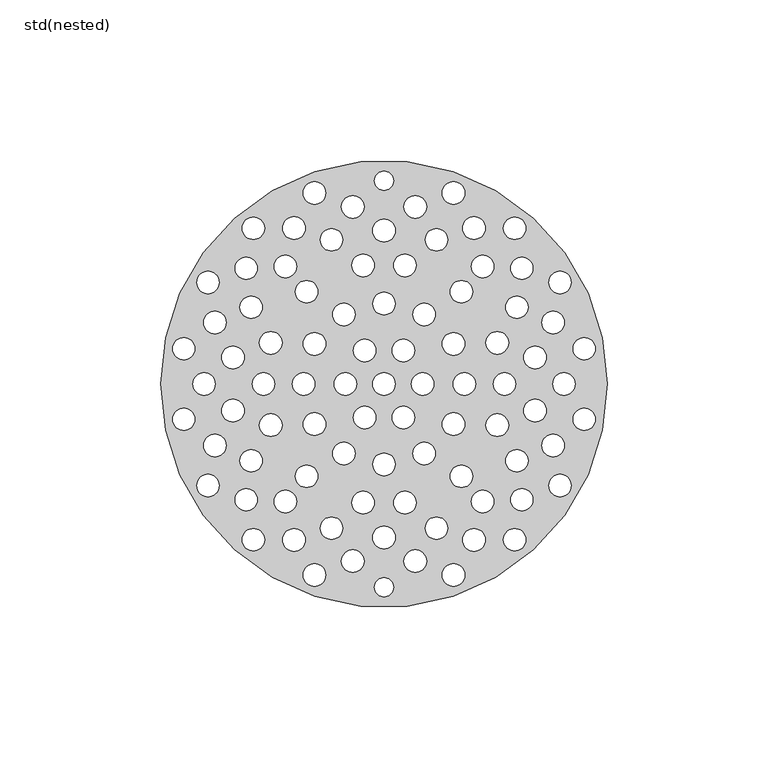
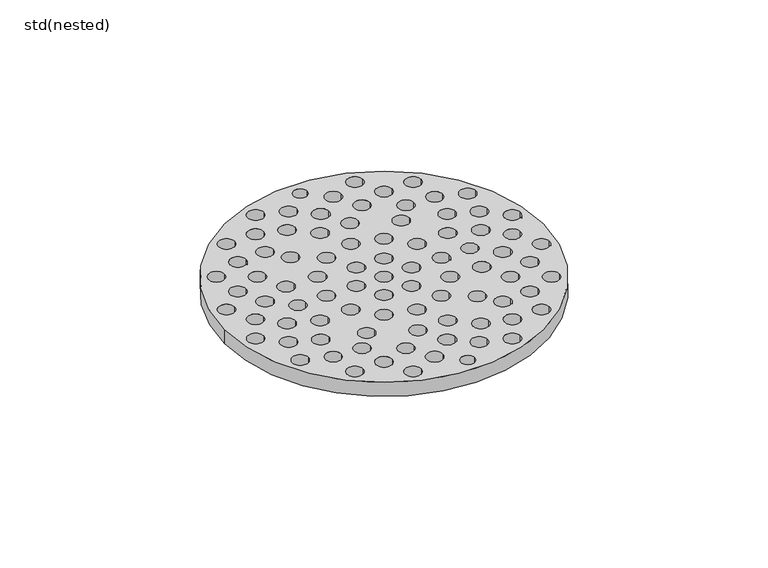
"""IFC4 building model written with IfcOpenShell, lengths in millimetres: sanitary terminal geometry, ZZZ_do not use_PF_ST_UN_strainer_ACO : std(nested)."""

from ifc_helpers import new_model, si_unit, point, frame, frame_2d, origin, origin_2d, place, context, project, spatial, circle_curve, trimmed, segment, composite_curve, outline, extrude, source, transform, mapped, element, save


def std_nested_a06eb340(model_context):
    return source(origin(), model_context, "Body", "SweptSolid", [
        extrude(outline(composite_curve([segment(trimmed(circle_curve(origin_2d(), 69.5), [point((-69.5, 0.0))], [point((69.5, 0.0))], False, "CARTESIAN"), True, "CONTINUOUS"), segment(trimmed(circle_curve(origin_2d(), 69.5), [point((69.5, 0.0))], [point((-69.5, 0.0))], False, "CARTESIAN"), True, "CONTINUOUS")], self_intersect=False), holes=[composite_curve([segment(trimmed(circle_curve(origin_2d(), 3.5), [point((-3.5, 0.0))], [point((3.5, 0.0))], True, "CARTESIAN"), True, "CONTINUOUS"), segment(trimmed(circle_curve(origin_2d(), 3.5), [point((3.5, 0.0))], [point((-3.5, 0.0))], True, "CARTESIAN"), True, "CONTINUOUS")], self_intersect=False), composite_curve([segment(trimmed(circle_curve(frame_2d((12.0298179, 0.0)), 3.504218), [point((8.5255999, 0.0))], [point((15.534036, 0.0))], True, "CARTESIAN"), True, "CONTINUOUS"), segment(trimmed(circle_curve(frame_2d((12.0298179, 0.0)), 3.504218), [point((15.534036, 0.0))], [point((8.5255999, 0.0))], True, "CARTESIAN"), True, "CONTINUOUS")], self_intersect=False), composite_curve([segment(trimmed(circle_curve(frame_2d((6.014909, -10.4181279)), 3.5028216), [point((2.5120874, -10.4181279))], [point((9.5177305, -10.4181279))], True, "CARTESIAN"), True, "CONTINUOUS"), segment(trimmed(circle_curve(frame_2d((6.014909, -10.4181279)), 3.5028216), [point((9.5177305, -10.4181279))], [point((2.5120874, -10.4181279))], True, "CARTESIAN"), True, "CONTINUOUS")], self_intersect=False), composite_curve([segment(trimmed(circle_curve(frame_2d((6.014909, 10.4181279)), 3.506112), [point((2.508797, 10.4181279))], [point((9.521021, 10.4181279))], True, "CARTESIAN"), True, "CONTINUOUS"), segment(trimmed(circle_curve(frame_2d((6.014909, 10.4181279)), 3.506112), [point((9.521021, 10.4181279))], [point((2.508797, 10.4181279))], True, "CARTESIAN"), True, "CONTINUOUS")], self_intersect=False), composite_curve([segment(trimmed(circle_curve(frame_2d((-12.0298179, 0.0)), 3.504218), [point((-8.5255999, 0.0))], [point((-15.534036, 0.0))], True, "CARTESIAN"), True, "CONTINUOUS"), segment(trimmed(circle_curve(frame_2d((-12.0298179, 0.0)), 3.504218), [point((-15.534036, 0.0))], [point((-8.5255999, 0.0))], True, "CARTESIAN"), True, "CONTINUOUS")], self_intersect=False), composite_curve([segment(trimmed(circle_curve(frame_2d((-6.014909, -10.4181279)), 3.5028216), [point((-2.5120874, -10.4181279))], [point((-9.5177305, -10.4181279))], True, "CARTESIAN"), True, "CONTINUOUS"), segment(trimmed(circle_curve(frame_2d((-6.014909, -10.4181279)), 3.5028216), [point((-9.5177305, -10.4181279))], [point((-2.5120874, -10.4181279))], True, "CARTESIAN"), True, "CONTINUOUS")], self_intersect=False), composite_curve([segment(trimmed(circle_curve(frame_2d((-6.014909, 10.4181279)), 3.506112), [point((-2.508797, 10.4181279))], [point((-9.521021, 10.4181279))], True, "CARTESIAN"), True, "CONTINUOUS"), segment(trimmed(circle_curve(frame_2d((-6.014909, 10.4181279)), 3.506112), [point((-9.521021, 10.4181279))], [point((-2.508797, 10.4181279))], True, "CARTESIAN"), True, "CONTINUOUS")], self_intersect=False), composite_curve([segment(trimmed(circle_curve(frame_2d((0.0, -25.0)), 3.4978056), [point((-3.4978056, -25.0))], [point((3.4978056, -25.0))], True, "CARTESIAN"), True, "CONTINUOUS"), segment(trimmed(circle_curve(frame_2d((0.0, -25.0)), 3.4978056), [point((3.4978056, -25.0))], [point((-3.4978056, -25.0))], True, "CARTESIAN"), True, "CONTINUOUS")], self_intersect=False), composite_curve([segment(trimmed(circle_curve(frame_2d((25.0, 0.0)), 3.4808201), [point((21.5191799, 0.0))], [point((28.4808201, 0.0))], True, "CARTESIAN"), True, "CONTINUOUS"), segment(trimmed(circle_curve(frame_2d((25.0, 0.0)), 3.4808201), [point((28.4808201, 0.0))], [point((21.5191799, 0.0))], True, "CARTESIAN"), True, "CONTINUOUS")], self_intersect=False), composite_curve([segment(trimmed(circle_curve(frame_2d((12.5, -21.6506351)), 3.4976423), [point((9.0023577, -21.6506351))], [point((15.9976423, -21.6506351))], True, "CARTESIAN"), True, "CONTINUOUS"), segment(trimmed(circle_curve(frame_2d((12.5, -21.6506351)), 3.4976423), [point((15.9976423, -21.6506351))], [point((9.0023577, -21.6506351))], True, "CARTESIAN"), True, "CONTINUOUS")], self_intersect=False), composite_curve([segment(trimmed(circle_curve(frame_2d((21.6506351, -12.5)), 3.5257951), [point((18.12484, -12.5))], [point((25.1764302, -12.5))], True, "CARTESIAN"), True, "CONTINUOUS"), segment(trimmed(circle_curve(frame_2d((21.6506351, -12.5)), 3.5257951), [point((25.1764302, -12.5))], [point((18.12484, -12.5))], True, "CARTESIAN"), True, "CONTINUOUS")], self_intersect=False), composite_curve([segment(trimmed(circle_curve(frame_2d((0.0, 25.0)), 3.4978056), [point((-3.4978056, 25.0))], [point((3.4978056, 25.0))], True, "CARTESIAN"), True, "CONTINUOUS"), segment(trimmed(circle_curve(frame_2d((0.0, 25.0)), 3.4978056), [point((3.4978056, 25.0))], [point((-3.4978056, 25.0))], True, "CARTESIAN"), True, "CONTINUOUS")], self_intersect=False), composite_curve([segment(trimmed(circle_curve(frame_2d((12.5, 21.6506351)), 3.4976423), [point((9.0023577, 21.6506351))], [point((15.9976423, 21.6506351))], True, "CARTESIAN"), True, "CONTINUOUS"), segment(trimmed(circle_curve(frame_2d((12.5, 21.6506351)), 3.4976423), [point((15.9976423, 21.6506351))], [point((9.0023577, 21.6506351))], True, "CARTESIAN"), True, "CONTINUOUS")], self_intersect=False), composite_curve([segment(trimmed(circle_curve(frame_2d((21.6506351, 12.5)), 3.5257951), [point((18.12484, 12.5))], [point((25.1764302, 12.5))], True, "CARTESIAN"), True, "CONTINUOUS"), segment(trimmed(circle_curve(frame_2d((21.6506351, 12.5)), 3.5257951), [point((25.1764302, 12.5))], [point((18.12484, 12.5))], True, "CARTESIAN"), True, "CONTINUOUS")], self_intersect=False), composite_curve([segment(trimmed(circle_curve(frame_2d((-25.0, 0.0)), 3.4808201), [point((-21.5191799, 0.0))], [point((-28.4808201, 0.0))], True, "CARTESIAN"), True, "CONTINUOUS"), segment(trimmed(circle_curve(frame_2d((-25.0, 0.0)), 3.4808201), [point((-28.4808201, 0.0))], [point((-21.5191799, 0.0))], True, "CARTESIAN"), True, "CONTINUOUS")], self_intersect=False), composite_curve([segment(trimmed(circle_curve(frame_2d((-12.5, -21.6506351)), 3.4976423), [point((-9.0023577, -21.6506351))], [point((-15.9976423, -21.6506351))], True, "CARTESIAN"), True, "CONTINUOUS"), segment(trimmed(circle_curve(frame_2d((-12.5, -21.6506351)), 3.4976423), [point((-15.9976423, -21.6506351))], [point((-9.0023577, -21.6506351))], True, "CARTESIAN"), True, "CONTINUOUS")], self_intersect=False), composite_curve([segment(trimmed(circle_curve(frame_2d((-21.6506351, -12.5)), 3.5257951), [point((-18.12484, -12.5))], [point((-25.1764302, -12.5))], True, "CARTESIAN"), True, "CONTINUOUS"), segment(trimmed(circle_curve(frame_2d((-21.6506351, -12.5)), 3.5257951), [point((-25.1764302, -12.5))], [point((-18.12484, -12.5))], True, "CARTESIAN"), True, "CONTINUOUS")], self_intersect=False), composite_curve([segment(trimmed(circle_curve(frame_2d((-12.5, 21.6506351)), 3.4976423), [point((-9.0023577, 21.6506351))], [point((-15.9976423, 21.6506351))], True, "CARTESIAN"), True, "CONTINUOUS"), segment(trimmed(circle_curve(frame_2d((-12.5, 21.6506351)), 3.4976423), [point((-15.9976423, 21.6506351))], [point((-9.0023577, 21.6506351))], True, "CARTESIAN"), True, "CONTINUOUS")], self_intersect=False), composite_curve([segment(trimmed(circle_curve(frame_2d((-21.6506351, 12.5)), 3.5257951), [point((-18.12484, 12.5))], [point((-25.1764302, 12.5))], True, "CARTESIAN"), True, "CONTINUOUS"), segment(trimmed(circle_curve(frame_2d((-21.6506351, 12.5)), 3.5257951), [point((-25.1764302, 12.5))], [point((-18.12484, 12.5))], True, "CARTESIAN"), True, "CONTINUOUS")], self_intersect=False), composite_curve([segment(trimmed(circle_curve(frame_2d((-37.5, 0.0)), 3.4535299), [point((-40.9535299, 0.0))], [point((-34.0464701, 0.0))], True, "CARTESIAN"), True, "CONTINUOUS"), segment(trimmed(circle_curve(frame_2d((-37.5, 0.0)), 3.4535299), [point((-34.0464701, 0.0))], [point((-40.9535299, 0.0))], True, "CARTESIAN"), True, "CONTINUOUS")], self_intersect=False), composite_curve([segment(trimmed(circle_curve(frame_2d((-35.2384733, -12.8257554)), 3.5254367), [point((-38.76391, -12.8257554))], [point((-31.7130366, -12.8257554))], True, "CARTESIAN"), True, "CONTINUOUS"), segment(trimmed(circle_curve(frame_2d((-35.2384733, -12.8257554)), 3.5254367), [point((-31.7130366, -12.8257554))], [point((-38.76391, -12.8257554))], True, "CARTESIAN"), True, "CONTINUOUS")], self_intersect=False), composite_curve([segment(trimmed(circle_curve(frame_2d((-24.1045354, -28.7266666)), 3.4932114), [point((-27.5977468, -28.7266666))], [point((-20.611324, -28.7266666))], True, "CARTESIAN"), True, "CONTINUOUS"), segment(trimmed(circle_curve(frame_2d((-24.1045354, -28.7266666)), 3.4932114), [point((-20.611324, -28.7266666))], [point((-27.5977468, -28.7266666))], True, "CARTESIAN"), True, "CONTINUOUS")], self_intersect=False), composite_curve([segment(trimmed(circle_curve(frame_2d((-6.5118067, -36.9302907)), 3.5194336), [point((-10.0312403, -36.9302907))], [point((-2.992373, -36.9302907))], True, "CARTESIAN"), True, "CONTINUOUS"), segment(trimmed(circle_curve(frame_2d((-6.5118067, -36.9302907)), 3.5194336), [point((-2.992373, -36.9302907))], [point((-10.0312403, -36.9302907))], True, "CARTESIAN"), True, "CONTINUOUS")], self_intersect=False), composite_curve([segment(trimmed(circle_curve(frame_2d((-35.2384733, 12.8257554)), 3.5254367), [point((-38.76391, 12.8257554))], [point((-31.7130366, 12.8257554))], True, "CARTESIAN"), True, "CONTINUOUS"), segment(trimmed(circle_curve(frame_2d((-35.2384733, 12.8257554)), 3.5254367), [point((-31.7130366, 12.8257554))], [point((-38.76391, 12.8257554))], True, "CARTESIAN"), True, "CONTINUOUS")], self_intersect=False), composite_curve([segment(trimmed(circle_curve(frame_2d((-24.1045354, 28.7266666)), 3.4932114), [point((-27.5977468, 28.7266666))], [point((-20.611324, 28.7266666))], True, "CARTESIAN"), True, "CONTINUOUS"), segment(trimmed(circle_curve(frame_2d((-24.1045354, 28.7266666)), 3.4932114), [point((-20.611324, 28.7266666))], [point((-27.5977468, 28.7266666))], True, "CARTESIAN"), True, "CONTINUOUS")], self_intersect=False), composite_curve([segment(trimmed(circle_curve(frame_2d((-6.5118067, 36.9302907)), 3.5194336), [point((-10.0312403, 36.9302907))], [point((-2.992373, 36.9302907))], True, "CARTESIAN"), True, "CONTINUOUS"), segment(trimmed(circle_curve(frame_2d((-6.5118067, 36.9302907)), 3.5194336), [point((-2.992373, 36.9302907))], [point((-10.0312403, 36.9302907))], True, "CARTESIAN"), True, "CONTINUOUS")], self_intersect=False), composite_curve([segment(trimmed(circle_curve(frame_2d((37.5, 0.0)), 3.4535299), [point((40.9535299, 0.0))], [point((34.0464701, 0.0))], True, "CARTESIAN"), True, "CONTINUOUS"), segment(trimmed(circle_curve(frame_2d((37.5, 0.0)), 3.4535299), [point((34.0464701, 0.0))], [point((40.9535299, 0.0))], True, "CARTESIAN"), True, "CONTINUOUS")], self_intersect=False), composite_curve([segment(trimmed(circle_curve(frame_2d((35.2384733, -12.8257554)), 3.5254367), [point((38.76391, -12.8257554))], [point((31.7130366, -12.8257554))], True, "CARTESIAN"), True, "CONTINUOUS"), segment(trimmed(circle_curve(frame_2d((35.2384733, -12.8257554)), 3.5254367), [point((31.7130366, -12.8257554))], [point((38.76391, -12.8257554))], True, "CARTESIAN"), True, "CONTINUOUS")], self_intersect=False), composite_curve([segment(trimmed(circle_curve(frame_2d((24.1045354, -28.7266666)), 3.4932114), [point((27.5977468, -28.7266666))], [point((20.611324, -28.7266666))], True, "CARTESIAN"), True, "CONTINUOUS"), segment(trimmed(circle_curve(frame_2d((24.1045354, -28.7266666)), 3.4932114), [point((20.611324, -28.7266666))], [point((27.5977468, -28.7266666))], True, "CARTESIAN"), True, "CONTINUOUS")], self_intersect=False), composite_curve([segment(trimmed(circle_curve(frame_2d((6.5118067, -36.9302907)), 3.5194336), [point((10.0312403, -36.9302907))], [point((2.992373, -36.9302907))], True, "CARTESIAN"), True, "CONTINUOUS"), segment(trimmed(circle_curve(frame_2d((6.5118067, -36.9302907)), 3.5194336), [point((2.992373, -36.9302907))], [point((10.0312403, -36.9302907))], True, "CARTESIAN"), True, "CONTINUOUS")], self_intersect=False), composite_curve([segment(trimmed(circle_curve(frame_2d((35.2384733, 12.8257554)), 3.5254367), [point((38.76391, 12.8257554))], [point((31.7130366, 12.8257554))], True, "CARTESIAN"), True, "CONTINUOUS"), segment(trimmed(circle_curve(frame_2d((35.2384733, 12.8257554)), 3.5254367), [point((31.7130366, 12.8257554))], [point((38.76391, 12.8257554))], True, "CARTESIAN"), True, "CONTINUOUS")], self_intersect=False), composite_curve([segment(trimmed(circle_curve(frame_2d((24.1045354, 28.7266666)), 3.4932114), [point((27.5977468, 28.7266666))], [point((20.611324, 28.7266666))], True, "CARTESIAN"), True, "CONTINUOUS"), segment(trimmed(circle_curve(frame_2d((24.1045354, 28.7266666)), 3.4932114), [point((20.611324, 28.7266666))], [point((27.5977468, 28.7266666))], True, "CARTESIAN"), True, "CONTINUOUS")], self_intersect=False), composite_curve([segment(trimmed(circle_curve(frame_2d((6.5118067, 36.9302907)), 3.5194336), [point((10.0312403, 36.9302907))], [point((2.992373, 36.9302907))], True, "CARTESIAN"), True, "CONTINUOUS"), segment(trimmed(circle_curve(frame_2d((6.5118067, 36.9302907)), 3.5194336), [point((2.992373, 36.9302907))], [point((10.0312403, 36.9302907))], True, "CARTESIAN"), True, "CONTINUOUS")], self_intersect=False), composite_curve([segment(trimmed(circle_curve(frame_2d((0.0, -47.75)), 3.5450516), [point((-3.5450516, -47.75))], [point((3.5450516, -47.75))], True, "CARTESIAN"), True, "CONTINUOUS"), segment(trimmed(circle_curve(frame_2d((0.0, -47.75)), 3.5450516), [point((3.5450516, -47.75))], [point((-3.5450516, -47.75))], True, "CARTESIAN"), True, "CONTINUOUS")], self_intersect=False), composite_curve([segment(trimmed(circle_curve(frame_2d((16.3314618, -44.8703226)), 3.4852187), [point((12.8462432, -44.8703226))], [point((19.8166805, -44.8703226))], True, "CARTESIAN"), True, "CONTINUOUS"), segment(trimmed(circle_curve(frame_2d((16.3314618, -44.8703226)), 3.4852187), [point((19.8166805, -44.8703226))], [point((12.8462432, -44.8703226))], True, "CARTESIAN"), True, "CONTINUOUS")], self_intersect=False), composite_curve([segment(trimmed(circle_curve(frame_2d((30.6931084, -36.5786222)), 3.4906256), [point((27.2024828, -36.5786222))], [point((34.1837339, -36.5786222))], True, "CARTESIAN"), True, "CONTINUOUS"), segment(trimmed(circle_curve(frame_2d((30.6931084, -36.5786222)), 3.4906256), [point((34.1837339, -36.5786222))], [point((27.2024828, -36.5786222))], True, "CARTESIAN"), True, "CONTINUOUS")], self_intersect=False), composite_curve([segment(trimmed(circle_curve(frame_2d((41.352713, -23.875)), 3.4844835), [point((37.8682295, -23.875))], [point((44.8371965, -23.875))], True, "CARTESIAN"), True, "CONTINUOUS"), segment(trimmed(circle_curve(frame_2d((41.352713, -23.875)), 3.4844835), [point((44.8371965, -23.875))], [point((37.8682295, -23.875))], True, "CARTESIAN"), True, "CONTINUOUS")], self_intersect=False), composite_curve([segment(trimmed(circle_curve(frame_2d((47.0245702, -8.2917005)), 3.5366228), [point((43.4879474, -8.2917005))], [point((50.561193, -8.2917005))], True, "CARTESIAN"), True, "CONTINUOUS"), segment(trimmed(circle_curve(frame_2d((47.0245702, -8.2917005)), 3.5366228), [point((50.561193, -8.2917005))], [point((43.4879474, -8.2917005))], True, "CARTESIAN"), True, "CONTINUOUS")], self_intersect=False), composite_curve([segment(trimmed(circle_curve(frame_2d((0.0, 47.75)), 3.5450516), [point((-3.5450516, 47.75))], [point((3.5450516, 47.75))], True, "CARTESIAN"), True, "CONTINUOUS"), segment(trimmed(circle_curve(frame_2d((0.0, 47.75)), 3.5450516), [point((3.5450516, 47.75))], [point((-3.5450516, 47.75))], True, "CARTESIAN"), True, "CONTINUOUS")], self_intersect=False), composite_curve([segment(trimmed(circle_curve(frame_2d((16.3314618, 44.8703226)), 3.4852187), [point((12.8462432, 44.8703226))], [point((19.8166805, 44.8703226))], True, "CARTESIAN"), True, "CONTINUOUS"), segment(trimmed(circle_curve(frame_2d((16.3314618, 44.8703226)), 3.4852187), [point((19.8166805, 44.8703226))], [point((12.8462432, 44.8703226))], True, "CARTESIAN"), True, "CONTINUOUS")], self_intersect=False), composite_curve([segment(trimmed(circle_curve(frame_2d((30.6931084, 36.5786222)), 3.4906256), [point((27.2024828, 36.5786222))], [point((34.1837339, 36.5786222))], True, "CARTESIAN"), True, "CONTINUOUS"), segment(trimmed(circle_curve(frame_2d((30.6931084, 36.5786222)), 3.4906256), [point((34.1837339, 36.5786222))], [point((27.2024828, 36.5786222))], True, "CARTESIAN"), True, "CONTINUOUS")], self_intersect=False), composite_curve([segment(trimmed(circle_curve(frame_2d((41.352713, 23.875)), 3.4844835), [point((37.8682295, 23.875))], [point((44.8371965, 23.875))], True, "CARTESIAN"), True, "CONTINUOUS"), segment(trimmed(circle_curve(frame_2d((41.352713, 23.875)), 3.4844835), [point((44.8371965, 23.875))], [point((37.8682295, 23.875))], True, "CARTESIAN"), True, "CONTINUOUS")], self_intersect=False), composite_curve([segment(trimmed(circle_curve(frame_2d((47.0245702, 8.2917005)), 3.5366228), [point((43.4879474, 8.2917005))], [point((50.561193, 8.2917005))], True, "CARTESIAN"), True, "CONTINUOUS"), segment(trimmed(circle_curve(frame_2d((47.0245702, 8.2917005)), 3.5366228), [point((50.561193, 8.2917005))], [point((43.4879474, 8.2917005))], True, "CARTESIAN"), True, "CONTINUOUS")], self_intersect=False), composite_curve([segment(trimmed(circle_curve(frame_2d((-16.3314618, -44.8703226)), 3.4852187), [point((-12.8462432, -44.8703226))], [point((-19.8166805, -44.8703226))], True, "CARTESIAN"), True, "CONTINUOUS"), segment(trimmed(circle_curve(frame_2d((-16.3314618, -44.8703226)), 3.4852187), [point((-19.8166805, -44.8703226))], [point((-12.8462432, -44.8703226))], True, "CARTESIAN"), True, "CONTINUOUS")], self_intersect=False), composite_curve([segment(trimmed(circle_curve(frame_2d((-30.6931084, -36.5786222)), 3.4906256), [point((-27.2024828, -36.5786222))], [point((-34.1837339, -36.5786222))], True, "CARTESIAN"), True, "CONTINUOUS"), segment(trimmed(circle_curve(frame_2d((-30.6931084, -36.5786222)), 3.4906256), [point((-34.1837339, -36.5786222))], [point((-27.2024828, -36.5786222))], True, "CARTESIAN"), True, "CONTINUOUS")], self_intersect=False), composite_curve([segment(trimmed(circle_curve(frame_2d((-41.352713, -23.875)), 3.4844835), [point((-37.8682295, -23.875))], [point((-44.8371965, -23.875))], True, "CARTESIAN"), True, "CONTINUOUS"), segment(trimmed(circle_curve(frame_2d((-41.352713, -23.875)), 3.4844835), [point((-44.8371965, -23.875))], [point((-37.8682295, -23.875))], True, "CARTESIAN"), True, "CONTINUOUS")], self_intersect=False), composite_curve([segment(trimmed(circle_curve(frame_2d((-47.0245702, -8.2917005)), 3.5366228), [point((-43.4879474, -8.2917005))], [point((-50.561193, -8.2917005))], True, "CARTESIAN"), True, "CONTINUOUS"), segment(trimmed(circle_curve(frame_2d((-47.0245702, -8.2917005)), 3.5366228), [point((-50.561193, -8.2917005))], [point((-43.4879474, -8.2917005))], True, "CARTESIAN"), True, "CONTINUOUS")], self_intersect=False), composite_curve([segment(trimmed(circle_curve(frame_2d((-16.3314618, 44.8703226)), 3.4852187), [point((-12.8462432, 44.8703226))], [point((-19.8166805, 44.8703226))], True, "CARTESIAN"), True, "CONTINUOUS"), segment(trimmed(circle_curve(frame_2d((-16.3314618, 44.8703226)), 3.4852187), [point((-19.8166805, 44.8703226))], [point((-12.8462432, 44.8703226))], True, "CARTESIAN"), True, "CONTINUOUS")], self_intersect=False), composite_curve([segment(trimmed(circle_curve(frame_2d((-30.6931084, 36.5786222)), 3.4906256), [point((-27.2024828, 36.5786222))], [point((-34.1837339, 36.5786222))], True, "CARTESIAN"), True, "CONTINUOUS"), segment(trimmed(circle_curve(frame_2d((-30.6931084, 36.5786222)), 3.4906256), [point((-34.1837339, 36.5786222))], [point((-27.2024828, 36.5786222))], True, "CARTESIAN"), True, "CONTINUOUS")], self_intersect=False), composite_curve([segment(trimmed(circle_curve(frame_2d((-41.352713, 23.875)), 3.4844835), [point((-37.8682295, 23.875))], [point((-44.8371965, 23.875))], True, "CARTESIAN"), True, "CONTINUOUS"), segment(trimmed(circle_curve(frame_2d((-41.352713, 23.875)), 3.4844835), [point((-44.8371965, 23.875))], [point((-37.8682295, 23.875))], True, "CARTESIAN"), True, "CONTINUOUS")], self_intersect=False), composite_curve([segment(trimmed(circle_curve(frame_2d((-47.0245702, 8.2917005)), 3.5366228), [point((-43.4879474, 8.2917005))], [point((-50.561193, 8.2917005))], True, "CARTESIAN"), True, "CONTINUOUS"), segment(trimmed(circle_curve(frame_2d((-47.0245702, 8.2917005)), 3.5366228), [point((-50.561193, 8.2917005))], [point((-43.4879474, 8.2917005))], True, "CARTESIAN"), True, "CONTINUOUS")], self_intersect=False), composite_curve([segment(trimmed(circle_curve(frame_2d((56.0, 0.0)), 3.4785692), [point((52.5214308, 0.0))], [point((59.4785692, 0.0))], True, "CARTESIAN"), True, "CONTINUOUS"), segment(trimmed(circle_curve(frame_2d((56.0, 0.0)), 3.4785692), [point((59.4785692, 0.0))], [point((52.5214308, 0.0))], True, "CARTESIAN"), True, "CONTINUOUS")], self_intersect=False), composite_curve([segment(trimmed(circle_curve(frame_2d((52.6227868, -19.153128)), 3.5090356), [point((49.1137511, -19.153128))], [point((56.1318224, -19.153128))], True, "CARTESIAN"), True, "CONTINUOUS"), segment(trimmed(circle_curve(frame_2d((52.6227868, -19.153128)), 3.5090356), [point((56.1318224, -19.153128))], [point((49.1137511, -19.153128))], True, "CARTESIAN"), True, "CONTINUOUS")], self_intersect=False), composite_curve([segment(trimmed(circle_curve(frame_2d((42.8984888, -35.9961061)), 3.4678065), [point((39.4306823, -35.9961061))], [point((46.3662953, -35.9961061))], True, "CARTESIAN"), True, "CONTINUOUS"), segment(trimmed(circle_curve(frame_2d((42.8984888, -35.9961061)), 3.4678065), [point((46.3662953, -35.9961061))], [point((39.4306823, -35.9961061))], True, "CARTESIAN"), True, "CONTINUOUS")], self_intersect=False), composite_curve([segment(trimmed(circle_curve(frame_2d((28.0, -48.4974226)), 3.5317156), [point((24.4682844, -48.4974226))], [point((31.5317156, -48.4974226))], True, "CARTESIAN"), True, "CONTINUOUS"), segment(trimmed(circle_curve(frame_2d((28.0, -48.4974226)), 3.5317156), [point((31.5317156, -48.4974226))], [point((24.4682844, -48.4974226))], True, "CARTESIAN"), True, "CONTINUOUS")], self_intersect=False), composite_curve([segment(trimmed(circle_curve(frame_2d((9.7242979, -55.1492342)), 3.511042), [point((6.213256, -55.1492342))], [point((13.2353399, -55.1492342))], True, "CARTESIAN"), True, "CONTINUOUS"), segment(trimmed(circle_curve(frame_2d((9.7242979, -55.1492342)), 3.511042), [point((13.2353399, -55.1492342))], [point((6.213256, -55.1492342))], True, "CARTESIAN"), True, "CONTINUOUS")], self_intersect=False), composite_curve([segment(trimmed(circle_curve(frame_2d((52.6227868, 19.153128)), 3.5090356), [point((49.1137511, 19.153128))], [point((56.1318224, 19.153128))], True, "CARTESIAN"), True, "CONTINUOUS"), segment(trimmed(circle_curve(frame_2d((52.6227868, 19.153128)), 3.5090356), [point((56.1318224, 19.153128))], [point((49.1137511, 19.153128))], True, "CARTESIAN"), True, "CONTINUOUS")], self_intersect=False), composite_curve([segment(trimmed(circle_curve(frame_2d((42.8984888, 35.9961061)), 3.4678065), [point((39.4306823, 35.9961061))], [point((46.3662953, 35.9961061))], True, "CARTESIAN"), True, "CONTINUOUS"), segment(trimmed(circle_curve(frame_2d((42.8984888, 35.9961061)), 3.4678065), [point((46.3662953, 35.9961061))], [point((39.4306823, 35.9961061))], True, "CARTESIAN"), True, "CONTINUOUS")], self_intersect=False), composite_curve([segment(trimmed(circle_curve(frame_2d((28.0, 48.4974226)), 3.5317156), [point((24.4682844, 48.4974226))], [point((31.5317156, 48.4974226))], True, "CARTESIAN"), True, "CONTINUOUS"), segment(trimmed(circle_curve(frame_2d((28.0, 48.4974226)), 3.5317156), [point((31.5317156, 48.4974226))], [point((24.4682844, 48.4974226))], True, "CARTESIAN"), True, "CONTINUOUS")], self_intersect=False), composite_curve([segment(trimmed(circle_curve(frame_2d((9.7242979, 55.1492342)), 3.511042), [point((6.213256, 55.1492342))], [point((13.2353399, 55.1492342))], True, "CARTESIAN"), True, "CONTINUOUS"), segment(trimmed(circle_curve(frame_2d((9.7242979, 55.1492342)), 3.511042), [point((13.2353399, 55.1492342))], [point((6.213256, 55.1492342))], True, "CARTESIAN"), True, "CONTINUOUS")], self_intersect=False), composite_curve([segment(trimmed(circle_curve(frame_2d((-56.0, 0.0)), 3.4785692), [point((-52.5214308, 0.0))], [point((-59.4785692, 0.0))], True, "CARTESIAN"), True, "CONTINUOUS"), segment(trimmed(circle_curve(frame_2d((-56.0, 0.0)), 3.4785692), [point((-59.4785692, 0.0))], [point((-52.5214308, 0.0))], True, "CARTESIAN"), True, "CONTINUOUS")], self_intersect=False), composite_curve([segment(trimmed(circle_curve(frame_2d((-52.6227868, -19.153128)), 3.5090356), [point((-49.1137511, -19.153128))], [point((-56.1318224, -19.153128))], True, "CARTESIAN"), True, "CONTINUOUS"), segment(trimmed(circle_curve(frame_2d((-52.6227868, -19.153128)), 3.5090356), [point((-56.1318224, -19.153128))], [point((-49.1137511, -19.153128))], True, "CARTESIAN"), True, "CONTINUOUS")], self_intersect=False), composite_curve([segment(trimmed(circle_curve(frame_2d((-42.8984888, -35.9961061)), 3.4678065), [point((-39.4306823, -35.9961061))], [point((-46.3662953, -35.9961061))], True, "CARTESIAN"), True, "CONTINUOUS"), segment(trimmed(circle_curve(frame_2d((-42.8984888, -35.9961061)), 3.4678065), [point((-46.3662953, -35.9961061))], [point((-39.4306823, -35.9961061))], True, "CARTESIAN"), True, "CONTINUOUS")], self_intersect=False), composite_curve([segment(trimmed(circle_curve(frame_2d((-28.0, -48.4974226)), 3.5317156), [point((-24.4682844, -48.4974226))], [point((-31.5317156, -48.4974226))], True, "CARTESIAN"), True, "CONTINUOUS"), segment(trimmed(circle_curve(frame_2d((-28.0, -48.4974226)), 3.5317156), [point((-31.5317156, -48.4974226))], [point((-24.4682844, -48.4974226))], True, "CARTESIAN"), True, "CONTINUOUS")], self_intersect=False), composite_curve([segment(trimmed(circle_curve(frame_2d((-9.7242979, -55.1492342)), 3.511042), [point((-6.213256, -55.1492342))], [point((-13.2353399, -55.1492342))], True, "CARTESIAN"), True, "CONTINUOUS"), segment(trimmed(circle_curve(frame_2d((-9.7242979, -55.1492342)), 3.511042), [point((-13.2353399, -55.1492342))], [point((-6.213256, -55.1492342))], True, "CARTESIAN"), True, "CONTINUOUS")], self_intersect=False), composite_curve([segment(trimmed(circle_curve(frame_2d((-52.6227868, 19.153128)), 3.5090356), [point((-49.1137511, 19.153128))], [point((-56.1318224, 19.153128))], True, "CARTESIAN"), True, "CONTINUOUS"), segment(trimmed(circle_curve(frame_2d((-52.6227868, 19.153128)), 3.5090356), [point((-56.1318224, 19.153128))], [point((-49.1137511, 19.153128))], True, "CARTESIAN"), True, "CONTINUOUS")], self_intersect=False), composite_curve([segment(trimmed(circle_curve(frame_2d((-42.8984888, 35.9961061)), 3.4678065), [point((-39.4306823, 35.9961061))], [point((-46.3662953, 35.9961061))], True, "CARTESIAN"), True, "CONTINUOUS"), segment(trimmed(circle_curve(frame_2d((-42.8984888, 35.9961061)), 3.4678065), [point((-46.3662953, 35.9961061))], [point((-39.4306823, 35.9961061))], True, "CARTESIAN"), True, "CONTINUOUS")], self_intersect=False), composite_curve([segment(trimmed(circle_curve(frame_2d((-28.0, 48.4974226)), 3.5317156), [point((-24.4682844, 48.4974226))], [point((-31.5317156, 48.4974226))], True, "CARTESIAN"), True, "CONTINUOUS"), segment(trimmed(circle_curve(frame_2d((-28.0, 48.4974226)), 3.5317156), [point((-31.5317156, 48.4974226))], [point((-24.4682844, 48.4974226))], True, "CARTESIAN"), True, "CONTINUOUS")], self_intersect=False), composite_curve([segment(trimmed(circle_curve(frame_2d((-9.7242979, 55.1492342)), 3.511042), [point((-6.213256, 55.1492342))], [point((-13.2353399, 55.1492342))], True, "CARTESIAN"), True, "CONTINUOUS"), segment(trimmed(circle_curve(frame_2d((-9.7242979, 55.1492342)), 3.511042), [point((-13.2353399, 55.1492342))], [point((-6.213256, 55.1492342))], True, "CARTESIAN"), True, "CONTINUOUS")], self_intersect=False), composite_curve([segment(trimmed(circle_curve(frame_2d((0.0, -63.25)), 3.0112377), [point((-3.0112377, -63.25))], [point((3.0112377, -63.25))], True, "CARTESIAN"), True, "CONTINUOUS"), segment(trimmed(circle_curve(frame_2d((0.0, -63.25)), 3.0112377), [point((3.0112377, -63.25))], [point((-3.0112377, -63.25))], True, "CARTESIAN"), True, "CONTINUOUS")], self_intersect=False), composite_curve([segment(trimmed(circle_curve(frame_2d((21.6327741, -59.4355583)), 3.5038366), [point((18.1289374, -59.4355583))], [point((25.1366107, -59.4355583))], True, "CARTESIAN"), True, "CONTINUOUS"), segment(trimmed(circle_curve(frame_2d((21.6327741, -59.4355583)), 3.5038366), [point((25.1366107, -59.4355583))], [point((18.1289374, -59.4355583))], True, "CARTESIAN"), True, "CONTINUOUS")], self_intersect=False), composite_curve([segment(trimmed(circle_curve(frame_2d((40.6563163, -48.452311)), 3.4864435), [point((37.1698728, -48.452311))], [point((44.1427598, -48.452311))], True, "CARTESIAN"), True, "CONTINUOUS"), segment(trimmed(circle_curve(frame_2d((40.6563163, -48.452311)), 3.4864435), [point((44.1427598, -48.452311))], [point((37.1698728, -48.452311))], True, "CARTESIAN"), True, "CONTINUOUS")], self_intersect=False), composite_curve([segment(trimmed(circle_curve(frame_2d((54.7761068, -31.625)), 3.4935293), [point((51.2825775, -31.625))], [point((58.2696361, -31.625))], True, "CARTESIAN"), True, "CONTINUOUS"), segment(trimmed(circle_curve(frame_2d((54.7761068, -31.625)), 3.4935293), [point((58.2696361, -31.625))], [point((51.2825775, -31.625))], True, "CARTESIAN"), True, "CONTINUOUS")], self_intersect=False), composite_curve([segment(trimmed(circle_curve(frame_2d((62.2890904, -10.9832472)), 3.4607295), [point((58.8283609, -10.9832472))], [point((65.7498199, -10.9832472))], True, "CARTESIAN"), True, "CONTINUOUS"), segment(trimmed(circle_curve(frame_2d((62.2890904, -10.9832472)), 3.4607295), [point((65.7498199, -10.9832472))], [point((58.8283609, -10.9832472))], True, "CARTESIAN"), True, "CONTINUOUS")], self_intersect=False), composite_curve([segment(trimmed(circle_curve(frame_2d((0.0, 63.25)), 3.0112377), [point((-3.0112377, 63.25))], [point((3.0112377, 63.25))], True, "CARTESIAN"), True, "CONTINUOUS"), segment(trimmed(circle_curve(frame_2d((0.0, 63.25)), 3.0112377), [point((3.0112377, 63.25))], [point((-3.0112377, 63.25))], True, "CARTESIAN"), True, "CONTINUOUS")], self_intersect=False), composite_curve([segment(trimmed(circle_curve(frame_2d((21.6327741, 59.4355583)), 3.5038366), [point((18.1289374, 59.4355583))], [point((25.1366107, 59.4355583))], True, "CARTESIAN"), True, "CONTINUOUS"), segment(trimmed(circle_curve(frame_2d((21.6327741, 59.4355583)), 3.5038366), [point((25.1366107, 59.4355583))], [point((18.1289374, 59.4355583))], True, "CARTESIAN"), True, "CONTINUOUS")], self_intersect=False), composite_curve([segment(trimmed(circle_curve(frame_2d((40.6563163, 48.452311)), 3.4864435), [point((37.1698728, 48.452311))], [point((44.1427598, 48.452311))], True, "CARTESIAN"), True, "CONTINUOUS"), segment(trimmed(circle_curve(frame_2d((40.6563163, 48.452311)), 3.4864435), [point((44.1427598, 48.452311))], [point((37.1698728, 48.452311))], True, "CARTESIAN"), True, "CONTINUOUS")], self_intersect=False), composite_curve([segment(trimmed(circle_curve(frame_2d((54.7761068, 31.625)), 3.4935293), [point((51.2825775, 31.625))], [point((58.2696361, 31.625))], True, "CARTESIAN"), True, "CONTINUOUS"), segment(trimmed(circle_curve(frame_2d((54.7761068, 31.625)), 3.4935293), [point((58.2696361, 31.625))], [point((51.2825775, 31.625))], True, "CARTESIAN"), True, "CONTINUOUS")], self_intersect=False), composite_curve([segment(trimmed(circle_curve(frame_2d((62.2890904, 10.9832472)), 3.4607295), [point((58.8283609, 10.9832472))], [point((65.7498199, 10.9832472))], True, "CARTESIAN"), True, "CONTINUOUS"), segment(trimmed(circle_curve(frame_2d((62.2890904, 10.9832472)), 3.4607295), [point((65.7498199, 10.9832472))], [point((58.8283609, 10.9832472))], True, "CARTESIAN"), True, "CONTINUOUS")], self_intersect=False), composite_curve([segment(trimmed(circle_curve(frame_2d((-21.6327741, -59.4355583)), 3.5038366), [point((-18.1289374, -59.4355583))], [point((-25.1366107, -59.4355583))], True, "CARTESIAN"), True, "CONTINUOUS"), segment(trimmed(circle_curve(frame_2d((-21.6327741, -59.4355583)), 3.5038366), [point((-25.1366107, -59.4355583))], [point((-18.1289374, -59.4355583))], True, "CARTESIAN"), True, "CONTINUOUS")], self_intersect=False), composite_curve([segment(trimmed(circle_curve(frame_2d((-40.6563163, -48.452311)), 3.4864435), [point((-37.1698728, -48.452311))], [point((-44.1427598, -48.452311))], True, "CARTESIAN"), True, "CONTINUOUS"), segment(trimmed(circle_curve(frame_2d((-40.6563163, -48.452311)), 3.4864435), [point((-44.1427598, -48.452311))], [point((-37.1698728, -48.452311))], True, "CARTESIAN"), True, "CONTINUOUS")], self_intersect=False), composite_curve([segment(trimmed(circle_curve(frame_2d((-54.7761068, -31.625)), 3.4935293), [point((-51.2825775, -31.625))], [point((-58.2696361, -31.625))], True, "CARTESIAN"), True, "CONTINUOUS"), segment(trimmed(circle_curve(frame_2d((-54.7761068, -31.625)), 3.4935293), [point((-58.2696361, -31.625))], [point((-51.2825775, -31.625))], True, "CARTESIAN"), True, "CONTINUOUS")], self_intersect=False), composite_curve([segment(trimmed(circle_curve(frame_2d((-62.2890904, -10.9832472)), 3.4607295), [point((-58.8283609, -10.9832472))], [point((-65.7498199, -10.9832472))], True, "CARTESIAN"), True, "CONTINUOUS"), segment(trimmed(circle_curve(frame_2d((-62.2890904, -10.9832472)), 3.4607295), [point((-65.7498199, -10.9832472))], [point((-58.8283609, -10.9832472))], True, "CARTESIAN"), True, "CONTINUOUS")], self_intersect=False), composite_curve([segment(trimmed(circle_curve(frame_2d((-21.6327741, 59.4355583)), 3.5038366), [point((-18.1289374, 59.4355583))], [point((-25.1366107, 59.4355583))], True, "CARTESIAN"), True, "CONTINUOUS"), segment(trimmed(circle_curve(frame_2d((-21.6327741, 59.4355583)), 3.5038366), [point((-25.1366107, 59.4355583))], [point((-18.1289374, 59.4355583))], True, "CARTESIAN"), True, "CONTINUOUS")], self_intersect=False), composite_curve([segment(trimmed(circle_curve(frame_2d((-40.6563163, 48.452311)), 3.4864435), [point((-37.1698728, 48.452311))], [point((-44.1427598, 48.452311))], True, "CARTESIAN"), True, "CONTINUOUS"), segment(trimmed(circle_curve(frame_2d((-40.6563163, 48.452311)), 3.4864435), [point((-44.1427598, 48.452311))], [point((-37.1698728, 48.452311))], True, "CARTESIAN"), True, "CONTINUOUS")], self_intersect=False), composite_curve([segment(trimmed(circle_curve(frame_2d((-54.7761068, 31.625)), 3.4935293), [point((-51.2825775, 31.625))], [point((-58.2696361, 31.625))], True, "CARTESIAN"), True, "CONTINUOUS"), segment(trimmed(circle_curve(frame_2d((-54.7761068, 31.625)), 3.4935293), [point((-58.2696361, 31.625))], [point((-51.2825775, 31.625))], True, "CARTESIAN"), True, "CONTINUOUS")], self_intersect=False), composite_curve([segment(trimmed(circle_curve(frame_2d((-62.2890904, 10.9832472)), 3.4607295), [point((-58.8283609, 10.9832472))], [point((-65.7498199, 10.9832472))], True, "CARTESIAN"), True, "CONTINUOUS"), segment(trimmed(circle_curve(frame_2d((-62.2890904, 10.9832472)), 3.4607295), [point((-65.7498199, 10.9832472))], [point((-58.8283609, 10.9832472))], True, "CARTESIAN"), True, "CONTINUOUS")], self_intersect=False)]), frame((0.0, 0.0, -6.5), z_axis=(0.0, 0.0, 1.0), x_axis=(1.0, 0.0, 0.0)), (0.0, 0.0, 1.0), 6.5),
    ])


if __name__ == "__main__":
    model = new_model("IFC4")
    model_context = context("Model", 3, world=origin())
    ifc_project = project(units=[si_unit("LENGTHUNIT", "METRE", prefix="MILLI")], contexts=[model_context])
    site = spatial("IfcSite", under=ifc_project)
    building = spatial("IfcBuilding", under=site)
    placement = place(None, origin())
    std_nested_shape = std_nested_a06eb340(model_context)
    element("IfcSanitaryTerminal", 1, ObjectType="ZZZ_do not use_PF_ST_UN_strainer_ACO : std(nested)", at=placement, inside=building, context=model_context, shape_type="MappedRepresentation", body=[
        mapped(std_nested_shape, transform((0.0, 0.0, 0.0), x_axis=(1.0, 0.0, 0.0), y_axis=(0.0, 1.0, 0.0), z_axis=(0.0, 0.0, 1.0))),
    ])
    save(model, "model.ifc")
